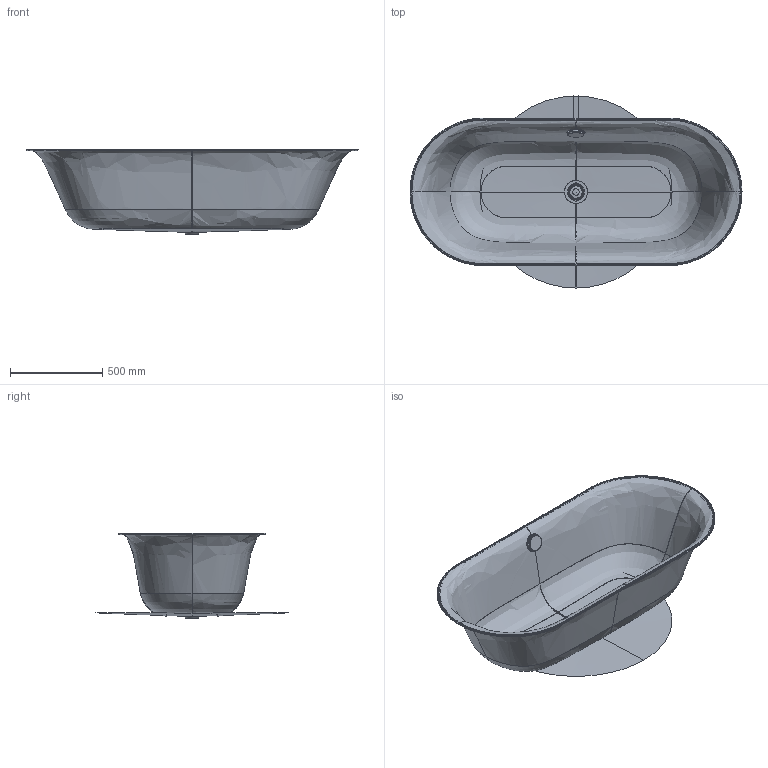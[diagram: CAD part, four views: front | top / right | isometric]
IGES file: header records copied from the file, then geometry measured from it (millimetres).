
Start section: Write IGES format                                    datakit 2008 (c)
Global section: file name: Unknown; native system: DATAKIT Converter; preprocessor: Unknown; author: Unknown; organization: Unknown; date: 950613.180003; units: millimetre
Bounding box: 1799 x 1040.39 x 464.7 mm (x, y, z)
Surface area: 5432460.8 mm2 (no closed solid volume)
Topology: 0 solids, 2 shells, 112 faces, 1750 edges, 1743 vertices
Faces by surface type: bspline 68, revolution 28, offset 12, extrusion 4
